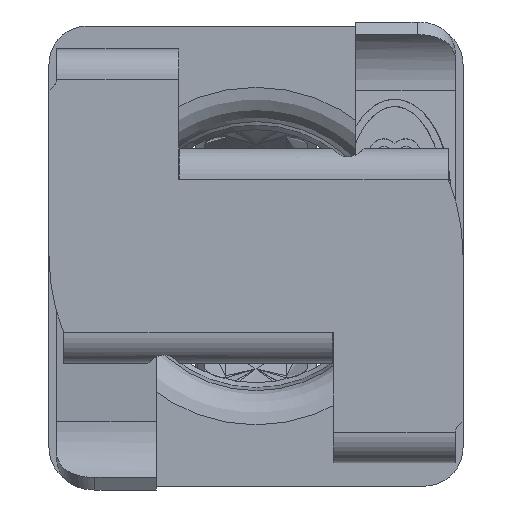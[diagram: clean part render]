
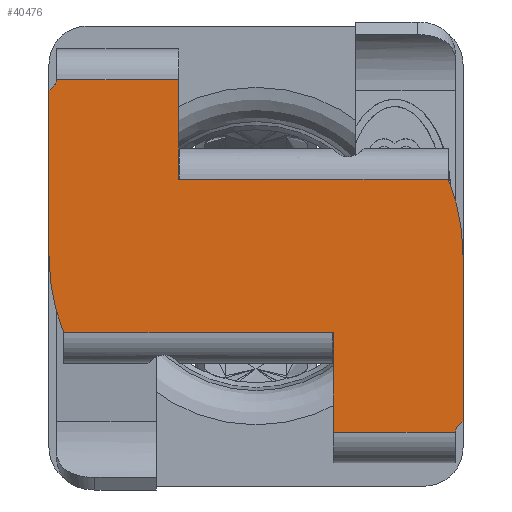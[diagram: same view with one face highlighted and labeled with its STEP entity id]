
A CAD part, top view. The second image highlights one B-rep face of the part: STEP entity #40476.
In plain terms, the highlighted planar face has unit normal (0, 0, 1).
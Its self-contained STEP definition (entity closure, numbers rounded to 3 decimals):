
#29461=CARTESIAN_POINT(' ',(1.01,-2.3,0.2));
#29462=VERTEX_POINT(' ',#29461);
#29476=CARTESIAN_POINT(' ',(1.01,-1.,0.2));
#29481=DIRECTION(' ',(0.,-1.,0.));
#29486=VECTOR(' ',#29481,1.);
#29491=LINE('',#29476,#29486);
#29496=CARTESIAN_POINT(' ',(1.01,-1.,0.2));
#29497=VERTEX_POINT(' ',#29496);
#29501=EDGE_CURVE(' ',#29497,#29462,#29491,.T.);
#33811=CARTESIAN_POINT(' ',(2.6,-2.3,0.2));
#33812=VERTEX_POINT(' ',#33811);
#34276=CARTESIAN_POINT(' ',(2.6,-2.3,0.2));
#34281=DIRECTION(' ',(-1.,0.,0.));
#34286=VECTOR(' ',#34281,1.);
#34291=LINE('',#34276,#34286);
#34296=EDGE_CURVE(' ',#33812,#29462,#34291,.T.);
#39926=DIRECTION(' ',(0.,0.,1.));
#39931=CARTESIAN_POINT(' ',(-2.7,-2.3,0.2));
#39936=DIRECTION(' ',(1.,0.,0.));
#39941=AXIS2_PLACEMENT_3D(' ',#39931,#39926,#39936);
#39946=PLANE('',#39941);
#39951=CARTESIAN_POINT(' ',(2.7,-2.159,0.2));
#39956=DIRECTION(' ',(0.,1.,0.));
#39961=VECTOR(' ',#39956,1.);
#39966=LINE('',#39951,#39961);
#39971=CARTESIAN_POINT(' ',(2.7,-2.159,0.2));
#39972=VERTEX_POINT(' ',#39971);
#39976=CARTESIAN_POINT(' ',(2.7,0.,0.2));
#39977=VERTEX_POINT(' ',#39976);
#39981=EDGE_CURVE(' ',#39972,#39977,#39966,.T.);
#39986=ORIENTED_EDGE(' ',*,*,#39981,.T.);
#39991=CARTESIAN_POINT(' ',(0.,0.,0.2));
#39996=DIRECTION(' ',(0.,0.,1.));
#40001=DIRECTION(' ',(1.,0.,0.));
#40006=AXIS2_PLACEMENT_3D(' ',#39991,#39996,#40001);
#40011=CIRCLE('',#40006,2.7);
#40016=CARTESIAN_POINT(' ',(2.508,1.,0.2));
#40017=VERTEX_POINT(' ',#40016);
#40021=EDGE_CURVE(' ',#39977,#40017,#40011,.T.);
#40026=ORIENTED_EDGE(' ',*,*,#40021,.T.);
#40031=CARTESIAN_POINT(' ',(-1.,1.,0.2));
#40036=DIRECTION(' ',(1.,0.,0.));
#40041=VECTOR(' ',#40036,1.);
#40046=LINE('',#40031,#40041);
#40051=CARTESIAN_POINT(' ',(-1.,1.,0.2));
#40052=VERTEX_POINT(' ',#40051);
#40056=EDGE_CURVE(' ',#40052,#40017,#40046,.T.);
#40061=ORIENTED_EDGE(' ',*,*,#40056,.F.);
#40066=CARTESIAN_POINT(' ',(-1.01,1.,0.2));
#40071=DIRECTION(' ',(1.,0.,0.));
#40076=VECTOR(' ',#40071,1.);
#40081=LINE('',#40066,#40076);
#40086=CARTESIAN_POINT(' ',(-1.01,1.,0.2));
#40087=VERTEX_POINT(' ',#40086);
#40091=EDGE_CURVE(' ',#40087,#40052,#40081,.T.);
#40096=ORIENTED_EDGE(' ',*,*,#40091,.F.);
#40101=CARTESIAN_POINT(' ',(-1.01,1.,0.2));
#40106=DIRECTION(' ',(0.,1.,0.));
#40111=VECTOR(' ',#40106,1.);
#40116=LINE('',#40101,#40111);
#40121=CARTESIAN_POINT(' ',(-1.01,2.3,0.2));
#40122=VERTEX_POINT(' ',#40121);
#40126=EDGE_CURVE(' ',#40087,#40122,#40116,.T.);
#40131=ORIENTED_EDGE(' ',*,*,#40126,.T.);
#40136=CARTESIAN_POINT(' ',(-2.6,2.3,0.2));
#40141=DIRECTION(' ',(1.,0.,0.));
#40146=VECTOR(' ',#40141,1.);
#40151=LINE('',#40136,#40146);
#40156=CARTESIAN_POINT(' ',(-2.6,2.3,0.2));
#40157=VERTEX_POINT(' ',#40156);
#40161=EDGE_CURVE(' ',#40157,#40122,#40151,.T.);
#40166=ORIENTED_EDGE(' ',*,*,#40161,.F.);
#40171=CARTESIAN_POINT(' ',(-2.7,2.3,0.2));
#40176=DIRECTION(' ',(0.,0.,-1.));
#40181=DIRECTION(' ',(1.,0.,0.));
#40186=AXIS2_PLACEMENT_3D(' ',#40171,#40176,#40181);
#40191=CIRCLE('',#40186,0.1);
#40196=CARTESIAN_POINT(' ',(-2.629,2.229,0.2));
#40197=VERTEX_POINT(' ',#40196);
#40201=EDGE_CURVE(' ',#40157,#40197,#40191,.T.);
#40206=ORIENTED_EDGE(' ',*,*,#40201,.T.);
#40211=CARTESIAN_POINT(' ',(-2.629,2.229,0.2));
#40216=DIRECTION(' ',(-0.707,-0.707,0.));
#40221=VECTOR(' ',#40216,1.);
#40226=LINE('',#40211,#40221);
#40231=CARTESIAN_POINT(' ',(-2.7,2.159,0.2));
#40232=VERTEX_POINT(' ',#40231);
#40236=EDGE_CURVE(' ',#40197,#40232,#40226,.T.);
#40241=ORIENTED_EDGE(' ',*,*,#40236,.T.);
#40246=CARTESIAN_POINT(' ',(-2.7,2.159,0.2));
#40251=DIRECTION(' ',(0.,-1.,0.));
#40256=VECTOR(' ',#40251,1.);
#40261=LINE('',#40246,#40256);
#40266=CARTESIAN_POINT(' ',(-2.7,0.,0.2));
#40267=VERTEX_POINT(' ',#40266);
#40271=EDGE_CURVE(' ',#40232,#40267,#40261,.T.);
#40276=ORIENTED_EDGE(' ',*,*,#40271,.T.);
#40281=CARTESIAN_POINT(' ',(0.,0.,0.2));
#40286=DIRECTION(' ',(-0.,-0.,1.));
#40291=DIRECTION(' ',(-1.,0.,0.));
#40296=AXIS2_PLACEMENT_3D(' ',#40281,#40286,#40291);
#40301=CIRCLE('',#40296,2.7);
#40306=CARTESIAN_POINT(' ',(-2.508,-1.,0.2));
#40307=VERTEX_POINT(' ',#40306);
#40311=EDGE_CURVE(' ',#40267,#40307,#40301,.T.);
#40316=ORIENTED_EDGE(' ',*,*,#40311,.T.);
#40321=CARTESIAN_POINT(' ',(-2.508,-1.,0.2));
#40326=DIRECTION(' ',(1.,0.,0.));
#40331=VECTOR(' ',#40326,1.);
#40336=LINE('',#40321,#40331);
#40341=CARTESIAN_POINT(' ',(1.,-1.,0.2));
#40342=VERTEX_POINT(' ',#40341);
#40346=EDGE_CURVE(' ',#40307,#40342,#40336,.T.);
#40351=ORIENTED_EDGE(' ',*,*,#40346,.T.);
#40356=CARTESIAN_POINT(' ',(1.,-1.,0.2));
#40361=DIRECTION(' ',(1.,0.,0.));
#40366=VECTOR(' ',#40361,1.);
#40371=LINE('',#40356,#40366);
#40376=EDGE_CURVE(' ',#40342,#29497,#40371,.T.);
#40381=ORIENTED_EDGE(' ',*,*,#40376,.T.);
#40386=ORIENTED_EDGE(' ',*,*,#29501,.T.);
#40391=ORIENTED_EDGE(' ',*,*,#34296,.F.);
#40396=CARTESIAN_POINT(' ',(2.7,-2.3,0.2));
#40401=DIRECTION(' ',(0.,0.,-1.));
#40406=DIRECTION(' ',(-1.,0.,0.));
#40411=AXIS2_PLACEMENT_3D(' ',#40396,#40401,#40406);
#40416=CIRCLE('',#40411,0.1);
#40421=CARTESIAN_POINT(' ',(2.629,-2.229,0.2));
#40422=VERTEX_POINT(' ',#40421);
#40426=EDGE_CURVE(' ',#33812,#40422,#40416,.T.);
#40431=ORIENTED_EDGE(' ',*,*,#40426,.T.);
#40436=CARTESIAN_POINT(' ',(2.629,-2.229,0.2));
#40441=DIRECTION(' ',(0.707,0.707,0.));
#40446=VECTOR(' ',#40441,1.);
#40451=LINE('',#40436,#40446);
#40456=EDGE_CURVE(' ',#40422,#39972,#40451,.T.);
#40461=ORIENTED_EDGE(' ',*,*,#40456,.T.);
#40466=EDGE_LOOP(' ',(#39986,#40026,#40061,#40096,#40131,#40166,#40206,#40241,#40276,#40316,#40351,#40381,#40386,#40391,#40431,#40461));
#40471=FACE_OUTER_BOUND(' ',#40466,.T.);
#40476=ADVANCED_FACE('',(#40471),#39946,.T.);
